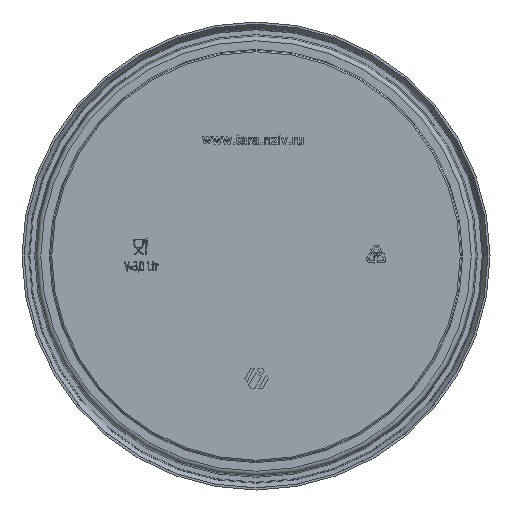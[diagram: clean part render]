
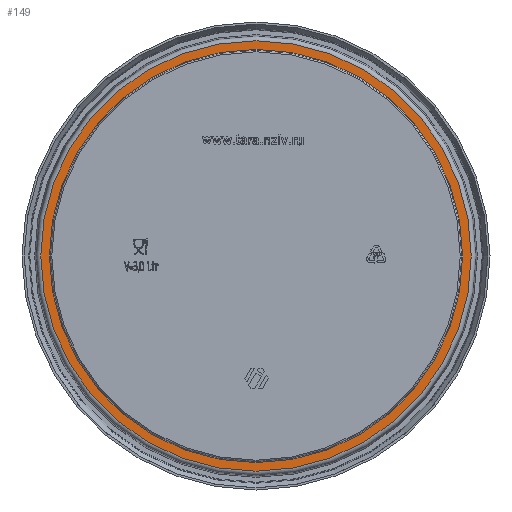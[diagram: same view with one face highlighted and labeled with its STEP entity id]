
A CAD part, front view. The second image highlights one B-rep face of the part: STEP entity #149.
In plain terms, the highlighted planar face has unit normal (0, -1, 0).
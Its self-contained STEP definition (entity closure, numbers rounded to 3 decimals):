
#149=ADVANCED_FACE('',(#883,#885),#887,.F.);
#883=FACE_BOUND('',#884,.T.);
#884=EDGE_LOOP('',(#4739));
#885=FACE_BOUND('',#886,.T.);
#886=EDGE_LOOP('',(#4740));
#887=PLANE('',#888);
#888=AXIS2_PLACEMENT_3D('',#889,#890,#891);
#889=CARTESIAN_POINT('',(0.,-6.9,0.));
#890=DIRECTION('',(0.,1.,0.));
#891=DIRECTION('',(-1.,0.,0.));
#4739=ORIENTED_EDGE('',*,*,#8378,.F.);
#4740=ORIENTED_EDGE('',*,*,#8380,.T.);
#8378=EDGE_CURVE('',#9889,#9889,#9890,.T.);
#8380=EDGE_CURVE('',#9893,#9893,#9894,.T.);
#9889=VERTEX_POINT('',#12434);
#9890=CIRCLE('',#12435,88.417);
#9893=VERTEX_POINT('',#12444);
#9894=CIRCLE('',#12445,84.9);
#12434=CARTESIAN_POINT('',(-88.417,-6.9,0.));
#12435=AXIS2_PLACEMENT_3D('',#12436,#12437,#12438);
#12436=CARTESIAN_POINT('',(0.,-6.9,0.));
#12437=DIRECTION('',(0.,1.,0.));
#12438=DIRECTION('',(-1.,0.,0.));
#12444=CARTESIAN_POINT('',(-84.9,-6.9,0.));
#12445=AXIS2_PLACEMENT_3D('',#12446,#12447,#12448);
#12446=CARTESIAN_POINT('',(0.,-6.9,0.));
#12447=DIRECTION('',(0.,1.,0.));
#12448=DIRECTION('',(-1.,0.,0.));
